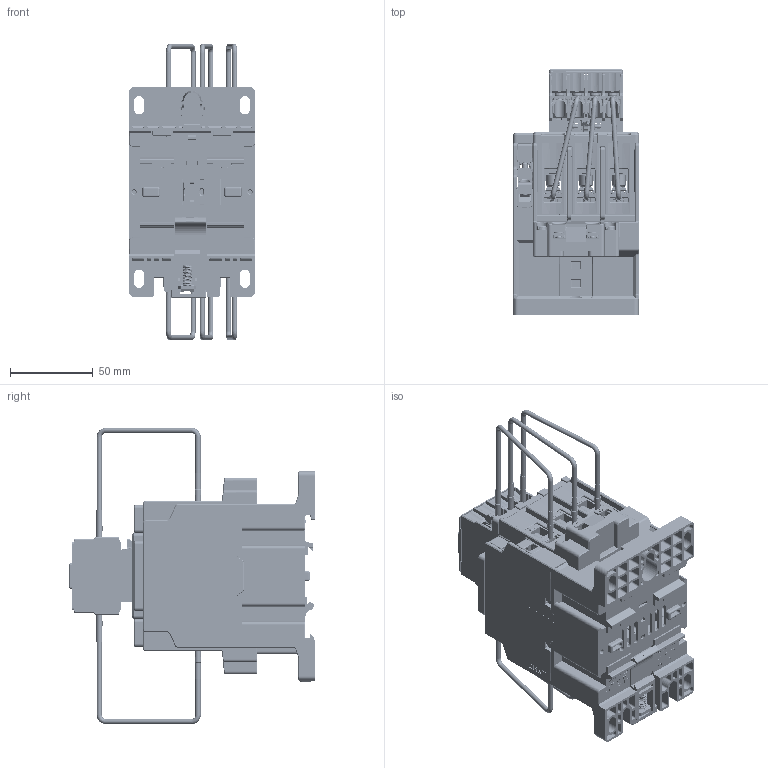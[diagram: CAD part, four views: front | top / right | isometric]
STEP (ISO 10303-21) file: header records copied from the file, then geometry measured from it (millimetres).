
FILE_DESCRIPTION((''),'2;1');
FILE_NAME('2400C1654_ASM','2025-03-04T12:48:20',('zyongj'),(''),'CREO PARAMETRIC BY PTC INC, 2020044','CREO PARAMETRIC BY PTC INC, 2020044','');
FILE_SCHEMA(('CONFIG_CONTROL_DESIGN','SHAPE_APPEARANCE_LAYERS_GROUPS'));
Products named in the file (165): 8ZTD-022-610; 8ZTD-261-090; 8ZTJ-282-105_AF2; 5ZTD-022-405_AF0_ASM; 8ZTD-732-447; 8ZTD-516-250; 5732C1633_ASM; 5ZTD-732-054_ASM; QBX_AF1; 5ZTD-520-780_AF0_ASM; 8ZTJ-907-002; 8ZTJ-950-003_AF1; 5ZTJ-850-001_AF0_ASM; 8ZTJ-950-003_AF8; 5ZTJ-850-001_AF6_ASM; 8ZTJ-950-003_AF7; 5ZTJ-850-001_AF7_ASM; 8ZTJ-950-003_AF6; 5ZTJ-850-001_AF5_ASM; 5ZTD-022-406_AF0_ASM; 8ZTD-024-822; 8ZTD-596-076; 8ZTD-557-589; 8ZTJ-550-087-ZP1_AF5; 8ZTJ-550-087-ZP2_AF5; 8ZTJ-550-087-1_4_AF3_ASM; 5ZTD-550-504_AF15_ASM; 8ZTJ-950-003_AF2; 5ZTJ-850-001_AF3_ASM; 5ZTD-550-774_AF0_ASM; 8ZTJ-550-087-ZP1_AF6; 8ZTJ-550-087-ZP2_AF6; 8ZTJ-550-087-1_4_AF4_ASM; 5ZTD-550-504_AF14_ASM; 8ZTJ-950-003_AF3; 5ZTJ-850-001_AF2_ASM; 5ZTD-550-774_AF1_ASM; 8ZTD-557-590; 8ZTJ-550-087-ZP1_AF7; 8ZTJ-550-087-ZP2_AF7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
Assembly tree (243 placements, depth 7):
  2400C1654_ASM
    2ZTD-400-176_AF0_ASM
      5ZTD-022-406_AF0_ASM
        5ZTD-022-405_AF0_ASM
          8ZTD-022-610
          8ZTD-261-090
          8ZTJ-282-105_AF2
        5ZTD-520-780_AF0_ASM
          5ZTD-732-054_ASM
            5732C1633_ASM
              8ZTD-732-447
              8ZTD-516-250  x2
          QBX_AF1
        5ZTJ-850-001_AF0_ASM
          8ZTJ-907-002
          8ZTJ-950-003_AF1
        5ZTJ-850-001_AF6_ASM
          8ZTJ-907-002
          8ZTJ-950-003_AF8
        5ZTJ-850-001_AF7_ASM
          8ZTJ-907-002
          8ZTJ-950-003_AF7
        5ZTJ-850-001_AF5_ASM
          8ZTJ-907-002
          8ZTJ-950-003_AF6
      5ZTD-024-688_AF0_ASM
        8ZTD-024-822
        8ZTD-596-076  x6
        5ZTD-550-774_AF0_ASM
          5ZTD-550-504_AF15_ASM
            8ZTD-557-589
            8ZTJ-550-087-1_4_AF3_ASM
              8ZTJ-550-087-ZP1_AF5
              8ZTJ-550-087-ZP2_AF5
          5ZTJ-850-001_AF3_ASM
            8ZTJ-907-002
            8ZTJ-950-003_AF2
        5ZTD-550-774_AF1_ASM
          5ZTD-550-504_AF14_ASM
            8ZTD-557-589
            8ZTJ-550-087-1_4_AF4_ASM
              8ZTJ-550-087-ZP1_AF6
              8ZTJ-550-087-ZP2_AF6
          5ZTJ-850-001_AF2_ASM
            8ZTJ-907-002
            8ZTJ-950-003_AF3
        5ZTD-550-775_AF1_ASM
          5ZTD-550-505_AF0_ASM
            8ZTD-557-590
            8ZTJ-550-087-1_4_AF7_ASM
              8ZTJ-550-087-ZP1_AF7
              8ZTJ-550-087-ZP2_AF7
          5ZTJ-850-001_AF1_ASM
            8ZTJ-907-002
            8ZTJ-950-003_AF4
        5550C1628_AF1_ASM
          8ZTD-550-683
          8ZTD-557-692_AF1
        5550C1628_AF4_ASM
          8ZTD-550-683
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Bounding box: 76.2 x 148.7 x 179.2 mm (x, y, z)
Volume: 320005.8 mm3; surface area: 385111 mm2
Topology: 200 solids, 252 shells, 24821 faces, 64238 edges, 40297 vertices
Faces by surface type: plane 13850, cylinder 7244, torus 1148, sphere 867, cone 816, bspline 638, extrusion 258
Entity records: 934714 total; most frequent: CARTESIAN_POINT 176960, ORIENTED_EDGE 100092, DIRECTION 95322, PRESENTATION_STYLE_ASSIGNMENT 59948, EDGE_CURVE 50075, STYLED_ITEM 49141, CURVE_STYLE 47548, VECTOR 35898
